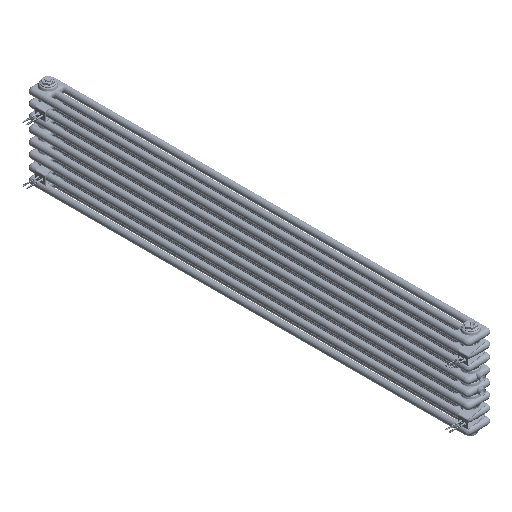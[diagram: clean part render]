
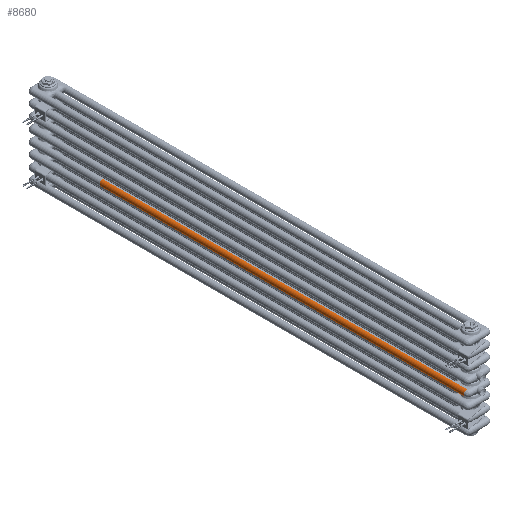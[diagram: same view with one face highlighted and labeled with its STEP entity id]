
A CAD part, isometric view. The second image highlights one B-rep face of the part: STEP entity #8680.
In plain terms, the highlighted cylindrical face has radius 12.5 mm (diameter 25 mm), a partial arc.
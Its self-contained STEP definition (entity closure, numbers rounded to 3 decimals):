
#8680=ADVANCED_FACE('',(#13402),#10798,.T.);
#10798=CYLINDRICAL_SURFACE('',#61826,12.5);
#13402=FACE_OUTER_BOUND('',#17181,.T.);
#17181=EDGE_LOOP('',(#32205,#32206,#32207,#32208,#32209,#32210));
#20583=CIRCLE('',#61803,12.5);
#20596=CIRCLE('',#61825,12.5);
#32205=ORIENTED_EDGE('',*,*,#50081,.F.);
#32206=ORIENTED_EDGE('',*,*,#50065,.T.);
#32207=ORIENTED_EDGE('',*,*,#50062,.T.);
#32208=ORIENTED_EDGE('',*,*,#50060,.T.);
#32209=ORIENTED_EDGE('',*,*,#50058,.T.);
#32210=ORIENTED_EDGE('',*,*,#50064,.T.);
#42633=VERTEX_POINT('',#162966);
#42634=VERTEX_POINT('',#162971);
#42642=VERTEX_POINT('',#163694);
#42643=VERTEX_POINT('',#163698);
#42644=VERTEX_POINT('',#163719);
#42645=VERTEX_POINT('',#163720);
#50058=EDGE_CURVE('',#42642,#42634,#55092,.T.);
#50060=EDGE_CURVE('',#42643,#42642,#20583,.T.);
#50062=EDGE_CURVE('',#42633,#42643,#55093,.T.);
#50064=EDGE_CURVE('',#42634,#42644,#55094,.T.);
#50065=EDGE_CURVE('',#42645,#42633,#55095,.T.);
#50081=EDGE_CURVE('',#42645,#42644,#20596,.T.);
#55092=LINE('',#163693,#57447);
#55093=LINE('',#163716,#57448);
#55094=LINE('',#163721,#57449);
#55095=LINE('',#163722,#57450);
#57447=VECTOR('',#72113,1.);
#57448=VECTOR('',#72122,1.);
#57449=VECTOR('',#72127,1.);
#57450=VECTOR('',#72128,1.);
#61803=AXIS2_PLACEMENT_3D('',#163697,#72118,#72119);
#61825=AXIS2_PLACEMENT_3D('',#163754,#72170,#72171);
#61826=AXIS2_PLACEMENT_3D('',#163755,#72172,#72173);
#72113=DIRECTION('',(0.,1.,0.));
#72118=DIRECTION('',(0.,1.,0.));
#72119=DIRECTION('',(0.,0.,-1.));
#72122=DIRECTION('',(0.,-1.,0.));
#72127=DIRECTION('',(0.,1.,0.));
#72128=DIRECTION('',(0.,-1.,0.));
#72170=DIRECTION('',(0.,1.,0.));
#72171=DIRECTION('',(1.,0.,0.));
#72172=DIRECTION('',(0.,1.,0.));
#72173=DIRECTION('',(0.,0.,1.));
#162966=CARTESIAN_POINT('',(12.5,78.,1430.));
#162971=CARTESIAN_POINT('',(12.5,78.,1455.));
#163693=CARTESIAN_POINT('',(12.5,15.5,1455.));
#163694=CARTESIAN_POINT('',(12.5,15.5,1455.));
#163697=CARTESIAN_POINT('',(12.5,15.5,1442.5));
#163698=CARTESIAN_POINT('',(12.5,15.5,1430.));
#163716=CARTESIAN_POINT('',(12.5,78.,1430.));
#163719=CARTESIAN_POINT('',(12.5,1501.5,1455.));
#163720=CARTESIAN_POINT('',(12.5,1501.5,1430.));
#163721=CARTESIAN_POINT('',(12.5,78.,1455.));
#163722=CARTESIAN_POINT('',(12.5,522.,1430.));
#163754=CARTESIAN_POINT('',(12.5,1501.5,1442.5));
#163755=CARTESIAN_POINT('',(12.5,15.5,1442.5));
